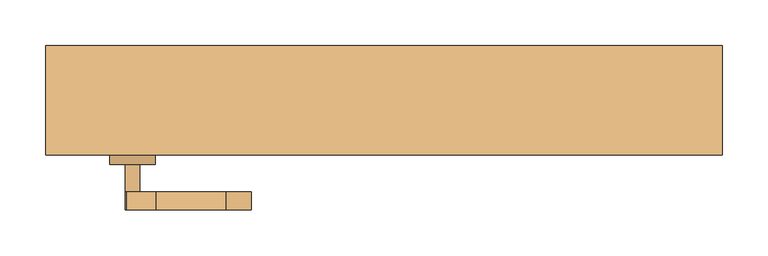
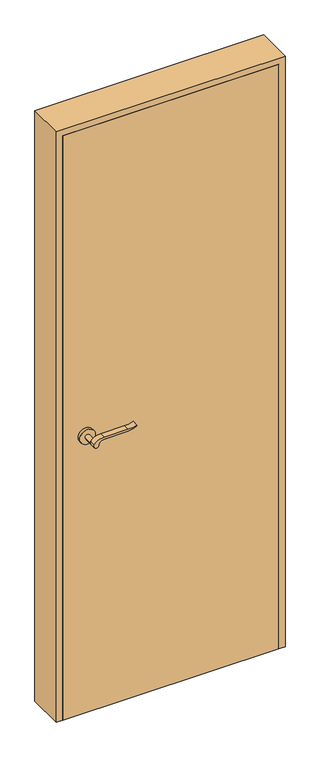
"""IFC4 building model written with IfcOpenShell, lengths in millimetres: door geometry, 木製_片開き_フラッシュ : WD-3 w700h2000."""

import ifcopenshell
import ifcopenshell.guid

model = None  # the IFC model being written
_history = None  # IfcOwnerHistory: only IFC2X3 demands one
_inside = {}  # id of a spatial element -> (the spatial element, [elements in it])
_under = {}  # id of a project, library or spatial element -> (it, [spatial elements below it])
_declared = {}  # id of a project -> (the project, [libraries it declares])
_typed = {}  # id of a type object -> (the type object, [elements of that type])
_made_of = {}  # id of a material, layer set ... -> (it, [elements and type objects made of it])


def new_model(schema):
    """Start an empty IFC model of exactly this schema.

    Asked for "IFC4X3", IfcOpenShell would pick the latest addendum, in which some entities
    have other attributes; the version numbers below select the first issue.
    IFC2X3 requires an IfcOwnerHistory on every rooted entity: one is made here for all.
    """
    global model, _history
    if schema == "IFC4X3":
        model = ifcopenshell.file(schema_version=(4, 3, 0, 0))
    else:
        model = ifcopenshell.file(schema=schema)
    _inside.clear()
    _under.clear()
    _declared.clear()
    _typed.clear()
    _made_of.clear()
    _history = None
    if model.schema == "IFC2X3":
        org = make("IfcOrganization", Name="unknown")
        user = make(
            "IfcPersonAndOrganization",
            ThePerson=make("IfcPerson", FamilyName="unknown"),
            TheOrganization=org,
        )
        app = make(
            "IfcApplication",
            ApplicationDeveloper=org,
            Version="unknown",
            ApplicationFullName="unknown",
            ApplicationIdentifier="unknown",
        )
        _history = make(
            "IfcOwnerHistory",
            OwningUser=user,
            OwningApplication=app,
            ChangeAction="ADDED",
            CreationDate=0,
        )
    return model


def make(cls, **values):
    """One entity of the class cls with the attributes given. An attribute that is None is left unset."""
    return model.create_entity(
        cls, **{name: value for name, value in values.items() if value is not None}
    )


def rooted(cls, **values):
    """An entity with a GlobalId (a new one), such as an element, a storey or a relation."""
    return make(cls, GlobalId=ifcopenshell.guid.new(), OwnerHistory=_history, **values)


def si_unit(unit_type, name, prefix=None):
    """IfcSIUnit, for example si_unit("LENGTHUNIT", "METRE", prefix="MILLI")."""
    return make("IfcSIUnit", UnitType=unit_type, Prefix=prefix, Name=name)


def assignment(units):
    """IfcUnitAssignment: the units of a project."""
    return None if units is None else make("IfcUnitAssignment", Units=units)


def point(xyz):
    """IfcCartesianPoint."""
    return None if xyz is None else make("IfcCartesianPoint", Coordinates=xyz)


def direction(xyz):
    """IfcDirection."""
    return None if xyz is None else make("IfcDirection", DirectionRatios=xyz)


def frame(location, z_axis=None, x_axis=None):
    """IfcAxis2Placement3D, a coordinate frame: its origin and axes. An axis left out is left unset."""
    return make(
        "IfcAxis2Placement3D",
        Location=point(location),
        Axis=direction(z_axis),
        RefDirection=direction(x_axis),
    )


def frame_2d(location, x_axis=None):
    """IfcAxis2Placement2D, a coordinate frame in the plane: its origin and x axis."""
    return make(
        "IfcAxis2Placement2D", Location=point(location), RefDirection=direction(x_axis)
    )


def origin():
    """The frame at (0, 0, 0) with its axes left unset."""
    return frame((0.0, 0.0, 0.0))


def origin_with_axes():
    """The frame at (0, 0, 0) with the z axis (0, 0, 1) and the x axis (1, 0, 0) written out."""
    return frame((0.0, 0.0, 0.0), z_axis=(0.0, 0.0, 1.0), x_axis=(1.0, 0.0, 0.0))


def place(relative_to, where):
    """IfcLocalPlacement: puts the frame where relative to a parent placement (None: the world)."""
    return make(
        "IfcLocalPlacement", PlacementRelTo=relative_to, RelativePlacement=where
    )


def context(
    kind, dimensions, precision=None, world=None, true_north=None, identifier=None
):
    """IfcGeometricRepresentationContext, for example the 3D "Model" context."""
    return make(
        "IfcGeometricRepresentationContext",
        ContextIdentifier=identifier,
        ContextType=kind,
        CoordinateSpaceDimension=dimensions,
        Precision=precision,
        WorldCoordinateSystem=world,
        TrueNorth=true_north,
    )


def project(units=None, contexts=None):
    """IfcProject with its units and contexts."""
    return rooted(
        "IfcProject",
        Name="project",
        RepresentationContexts=contexts,
        UnitsInContext=assignment(units),
    )


def spatial(cls, under=None, at=None, **own):
    """A site, building, storey or space (cls), placed at a placement, below another one or the project."""
    s = rooted(cls, ObjectPlacement=at, **own)
    if under is not None:
        _under.setdefault(under.id(), (under, []))[1].append(s)
    return s


def polyline(points):
    """IfcPolyline through the points."""
    return make("IfcPolyline", Points=[point(p) for p in points])


def circle_curve(where, radius):
    """IfcCircle in the frame where."""
    return make("IfcCircle", Position=where, Radius=radius)


def trimmed(basis, trim1, trim2, sense, master):
    """IfcTrimmedCurve: the piece of a basis curve between two trims."""
    return make(
        "IfcTrimmedCurve",
        BasisCurve=basis,
        Trim1=trim1,
        Trim2=trim2,
        SenseAgreement=sense,
        MasterRepresentation=master,
    )


def segment(curve, same_sense, transition):
    """IfcCompositeCurveSegment."""
    return make(
        "IfcCompositeCurveSegment",
        Transition=transition,
        SameSense=same_sense,
        ParentCurve=curve,
    )


def composite_curve(segments, self_intersect=None):
    """IfcCompositeCurve: segments joined end to end."""
    return make("IfcCompositeCurve", Segments=segments, SelfIntersect=self_intersect)


def outline(outer, holes=None, kind="AREA"):
    """IfcArbitraryClosedProfileDef: a profile drawn as a closed curve; with holes, ...WithVoids."""
    if holes is None:
        return make("IfcArbitraryClosedProfileDef", ProfileType=kind, OuterCurve=outer)
    return make(
        "IfcArbitraryProfileDefWithVoids",
        ProfileType=kind,
        OuterCurve=outer,
        InnerCurves=holes,
    )


def extrude(swept, where, along, depth):
    """IfcExtrudedAreaSolid: the profile swept, set in the frame where, extruded along a direction by depth."""
    return make(
        "IfcExtrudedAreaSolid",
        SweptArea=swept,
        Position=where,
        ExtrudedDirection=direction(along),
        Depth=depth,
    )


def shape(context_of_items, identifier, shape_type, items):
    """IfcShapeRepresentation: the items that make up one representation, for example the "Body"."""
    return make(
        "IfcShapeRepresentation",
        ContextOfItems=context_of_items,
        RepresentationIdentifier=identifier,
        RepresentationType=shape_type,
        Items=items,
    )


def source(mapping_origin, context_of_items, identifier, shape_type, items):
    """IfcRepresentationMap: a shape defined once, which mapped items show again and again."""
    return make(
        "IfcRepresentationMap",
        MappingOrigin=mapping_origin,
        MappedRepresentation=shape(context_of_items, identifier, shape_type, items),
    )


def transform(
    local_origin,
    x_axis=None,
    y_axis=None,
    z_axis=None,
    scale=None,
    scale2=None,
    scale3=None,
    uniform=True,
):
    """IfcCartesianTransformationOperator3D, or its non-uniform kind. x_axis, y_axis, z_axis: its Axis1, 2, 3."""
    if uniform:
        return make(
            "IfcCartesianTransformationOperator3D",
            Axis1=direction(x_axis),
            Axis2=direction(y_axis),
            LocalOrigin=point(local_origin),
            Scale=scale,
            Axis3=direction(z_axis),
        )
    return make(
        "IfcCartesianTransformationOperator3DnonUniform",
        Axis1=direction(x_axis),
        Axis2=direction(y_axis),
        LocalOrigin=point(local_origin),
        Scale=scale,
        Axis3=direction(z_axis),
        Scale2=scale2,
        Scale3=scale3,
    )


def mapped(mapping_source, mapping_target):
    """IfcMappedItem: shows the shape of a source again, moved by a transform."""
    return make(
        "IfcMappedItem", MappingSource=mapping_source, MappingTarget=mapping_target
    )


def made_of(thing, what):
    """Note that an element or type object is made of a material, layer set ...; save() writes the relation."""
    if what is not None:
        _made_of.setdefault(what.id(), (what, []))[1].append(thing)
    return thing


def element(
    cls,
    number,
    at=None,
    inside=None,
    cuts=None,
    type_object=None,
    material=None,
    context=None,
    identifier="Body",
    shape_type=None,
    held_by="IfcProductDefinitionShape",
    body=None,
    shapes=None,
    **own,
):
    """One element of the class cls, such as IfcWall. Its Tag is "e" and its number.

    at: its placement. inside: the storey or other place that contains it. cuts: it is an
    opening in that element (IfcRelVoidsElement). A single representation is given by context,
    identifier, shape_type and body (its items); several are given by shapes. held_by: the class
    of the entity that holds the representations. save() writes the other relations.
    """
    e = rooted(cls, Tag="e%d" % number, ObjectPlacement=at, **own)
    if body is not None:
        shapes = [shape(context, identifier, shape_type, body)]
    if shapes is not None:
        e.Representation = make(held_by, Representations=shapes)
    if inside is not None:
        _inside.setdefault(inside.id(), (inside, []))[1].append(e)
    if cuts is not None:
        rooted(
            "IfcRelVoidsElement", RelatingBuildingElement=cuts, RelatedOpeningElement=e
        )
    if type_object is not None:
        _typed.setdefault(type_object.id(), (type_object, []))[1].append(e)
    return made_of(e, material)


def aggregate(whole, parts):
    """IfcRelAggregates: a whole, such as a stair, and the parts it consists of."""
    return rooted("IfcRelAggregates", RelatingObject=whole, RelatedObjects=parts)


def save(model, path):
    """Write the relations noted so far, then the file.

    IfcRelAggregates (storeys below a building ...), IfcRelContainedInSpatialStructure (elements
    in a storey), IfcRelDefinesByType, IfcRelAssociatesMaterial and IfcRelDeclares: one each for
    every whole, place, type object, material and project.
    """
    for whole, parts in _under.values():
        aggregate(whole, parts)
    for where, things in _inside.values():
        rooted(
            "IfcRelContainedInSpatialStructure",
            RelatedElements=things,
            RelatingStructure=where,
        )
    for kind, things in _typed.values():
        rooted("IfcRelDefinesByType", RelatedObjects=things, RelatingType=kind)
    for what, things in _made_of.values():
        rooted("IfcRelAssociatesMaterial", RelatedObjects=things, RelatingMaterial=what)
    for by, libraries in _declared.values():
        rooted("IfcRelDeclares", RelatingContext=by, RelatedDefinitions=libraries)
    model.write(path)


def door_21f0bdc0(model_context):
    return source(origin(), model_context, "Body", "SweptSolid", [
        extrude(outline(composite_curve([segment(trimmed(circle_curve(frame_2d((950.0, -275.0)), 8.0), [point((954.6523287, -281.5081363))], [point((950.0, -267.0))], False, "CARTESIAN"), True, "CONTINUOUS"), segment(trimmed(circle_curve(frame_2d((944.8738613, -249.6138099)), 18.1261387), [point((950.0, -267.0))], [point((963.0, -249.6138099))], True, "CARTESIAN"), True, "CONTINUOUS"), segment(polyline([(963.0, -249.6138099), (963.0, -173.3564091)]), True, "CONTINUOUS"), segment(trimmed(circle_curve(frame_2d((1022.2709207, -176.9396612)), 59.3791355), [point((963.0, -173.3564091))], [point((972.2135558, -145.0))], False, "CARTESIAN"), True, "CONTINUOUS"), segment(polyline([(972.2135558, -145.0), (975.0, -145.0)]), True, "CONTINUOUS"), segment(trimmed(circle_curve(frame_2d((1053.2850638, -173.4227909)), 83.2850902), [point((975.0, -145.0))], [point((970.0, -173.3564091))], True, "CARTESIAN"), True, "CONTINUOUS"), segment(polyline([(970.0, -173.3564091), (970.0, -249.6325667)]), True, "CONTINUOUS"), segment(trimmed(circle_curve(frame_2d((932.7555521, -251.3324871)), 37.2832219), [point((970.0, -249.6325667))], [point((954.6523287, -281.5081363))], False, "CARTESIAN"), True, "CONTINUOUS")], self_intersect=False)), frame((0.0, -120.0, 0.0), z_axis=(0.0, 1.0, 0.0), x_axis=(0.0, 0.0, 1.0)), (0.0, 0.0, 1.0), 20.0),
        extrude(outline(composite_curve([segment(trimmed(circle_curve(frame_2d((944.8738682, -249.6138122)), 18.1261318), [point((949.9999903, -267.0))], [point((963.0, -249.6138122))], True, "CARTESIAN"), True, "CONTINUOUS"), segment(polyline([(963.0, -249.6138122), (963.0, -173.3564091)]), True, "CONTINUOUS"), segment(trimmed(circle_curve(frame_2d((1022.2709207, -176.9396612)), 59.3791355), [point((963.0, -173.3564091))], [point((972.2135558, -145.0))], False, "CARTESIAN"), True, "CONTINUOUS"), segment(polyline([(972.2135558, -145.0), (975.0, -145.0)]), True, "CONTINUOUS"), segment(trimmed(circle_curve(frame_2d((1053.2850638, -173.4227909)), 83.2850902), [point((975.0, -145.0))], [point((970.0, -173.3564091))], True, "CARTESIAN"), True, "CONTINUOUS"), segment(polyline([(970.0, -173.3564091), (970.0, -249.6325667)]), True, "CONTINUOUS"), segment(trimmed(circle_curve(frame_2d((932.7555521, -251.3324871)), 37.2832219), [point((970.0, -249.6325667))], [point((954.6523287, -281.5081363))], False, "CARTESIAN"), True, "CONTINUOUS"), segment(trimmed(circle_curve(frame_2d((950.0, -275.0)), 8.0), [point((954.6523287, -281.5081363))], [point((949.9999903, -267.0))], False, "CARTESIAN"), True, "CONTINUOUS")], self_intersect=False)), frame((0.0, 10.0, 0.0), z_axis=(0.0, 1.0, 0.0), x_axis=(0.0, 0.0, 1.0)), (0.0, 0.0, 1.0), 20.0),
        extrude(outline(composite_curve([segment(trimmed(circle_curve(frame_2d((950.0, -275.0)), 8.0), [point((950.0, -283.0))], [point((950.0, -267.0))], False, "CARTESIAN"), True, "CONTINUOUS"), segment(trimmed(circle_curve(frame_2d((950.0, -275.0)), 8.0), [point((950.0, -267.0))], [point((950.0, -283.0))], False, "CARTESIAN"), True, "CONTINUOUS")], self_intersect=False)), frame((0.0, -100.0, 0.0), z_axis=(0.0, 1.0, 0.0), x_axis=(0.0, 0.0, 1.0)), (0.0, 0.0, 1.0), 30.0),
        extrude(outline(composite_curve([segment(trimmed(circle_curve(frame_2d((950.0, -275.0)), 8.0), [point((950.0, -283.0))], [point((950.0, -267.0))], False, "CARTESIAN"), True, "CONTINUOUS"), segment(trimmed(circle_curve(frame_2d((950.0, -275.0)), 8.0), [point((950.0, -267.0))], [point((950.0, -283.0))], False, "CARTESIAN"), True, "CONTINUOUS")], self_intersect=False)), frame((0.0, -20.0, 0.0), z_axis=(0.0, 1.0, 0.0), x_axis=(0.0, 0.0, 1.0)), (0.0, 0.0, 1.0), 30.0),
        extrude(outline(composite_curve([segment(trimmed(circle_curve(frame_2d((950.0, -275.0)), 25.0), [point((950.0, -300.0))], [point((950.0, -250.0))], False, "CARTESIAN"), True, "CONTINUOUS"), segment(trimmed(circle_curve(frame_2d((950.0, -275.0)), 25.0), [point((950.0, -250.0))], [point((950.0, -300.0))], False, "CARTESIAN"), True, "CONTINUOUS")], self_intersect=False)), frame((0.0, -70.0, 0.0), z_axis=(0.0, 1.0, 0.0), x_axis=(0.0, 0.0, 1.0)), (0.0, 0.0, 1.0), 10.0),
        extrude(outline(composite_curve([segment(trimmed(circle_curve(frame_2d((950.0, -275.0)), 25.0), [point((950.0, -300.0))], [point((950.0, -250.0))], False, "CARTESIAN"), True, "CONTINUOUS"), segment(trimmed(circle_curve(frame_2d((950.0, -275.0)), 25.0), [point((950.0, -250.0))], [point((950.0, -300.0))], False, "CARTESIAN"), True, "CONTINUOUS")], self_intersect=False)), frame((0.0, -30.0, 0.0), z_axis=(0.0, 1.0, 0.0), x_axis=(0.0, 0.0, 1.0)), (0.0, 0.0, 1.0), 10.0),
        extrude(outline(polyline([(2020.0, -370.0), (0.0, -370.0), (0.0, -350.0), (2000.0, -350.0), (2000.0, 350.0), (0.0, 350.0), (0.0, 370.0), (2020.0, 370.0), (2020.0, -370.0)])), frame((0.0, -60.0, 0.0), z_axis=(0.0, 1.0, 0.0), x_axis=(0.0, 0.0, 1.0)), (0.0, 0.0, 1.0), 120.0),
        extrude(outline(polyline([(350.0, -30.0), (350.0, -60.0), (-350.0, -60.0), (-350.0, -30.0), (350.0, -30.0)])), origin_with_axes(), (0.0, 0.0, 1.0), 2000.0),
    ])


if __name__ == "__main__":
    model = new_model("IFC4")
    model_context = context("Model", 3, world=origin())
    ifc_project = project(units=[si_unit("LENGTHUNIT", "METRE", prefix="MILLI")], contexts=[model_context])
    site = spatial("IfcSite", under=ifc_project)
    building = spatial("IfcBuilding", under=site)
    placement = place(None, origin())
    door_shape = door_21f0bdc0(model_context)
    element("IfcDoor", 1, ObjectType="木製_片開き_フラッシュ : WD-3 w700h2000", at=placement, inside=building, context=model_context, shape_type="MappedRepresentation", body=[
        mapped(door_shape, transform((0.0, 0.0, 0.0), x_axis=(1.0, 0.0, 0.0), y_axis=(0.0, 1.0, 0.0), z_axis=(0.0, 0.0, 1.0))),
    ])
    save(model, "model.ifc")
